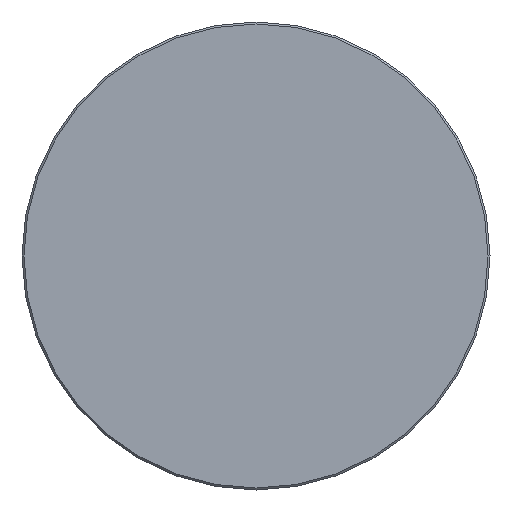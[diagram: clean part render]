
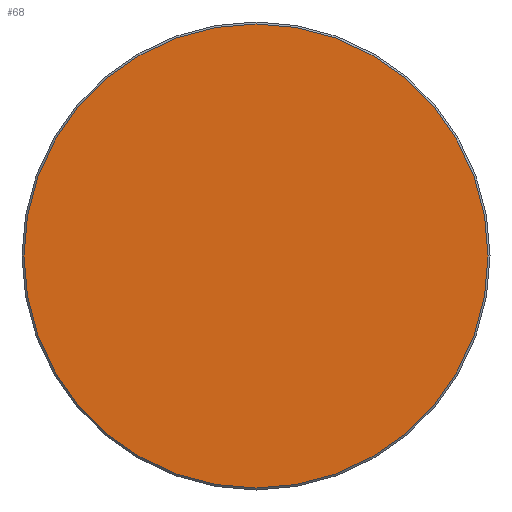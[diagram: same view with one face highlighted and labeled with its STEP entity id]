
A CAD part, left-side view. The second image highlights one B-rep face of the part: STEP entity #68.
In plain terms, the highlighted planar face has unit normal (-1, 0, 0).
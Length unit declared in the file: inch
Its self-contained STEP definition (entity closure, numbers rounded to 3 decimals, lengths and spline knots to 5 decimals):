
#4 = DIRECTION ( 'NONE',  ( -1., 0., 0. ) ) ;
#6 = DIRECTION ( 'NONE',  ( -1., 0., 0. ) ) ;
#15 = EDGE_CURVE ( 'NONE', #64, #316, #100, .T. ) ;
#36 = ORIENTED_EDGE ( 'NONE', *, *, #66, .T. ) ;
#37 = DIRECTION ( 'NONE',  ( 0., -1., 0. ) ) ;
#64 = VERTEX_POINT ( 'NONE', #271 ) ;
#66 = EDGE_CURVE ( 'NONE', #316, #64, #87, .T. ) ;
#68 = ADVANCED_FACE ( 'NONE', ( #122 ), #143, .T. ) ;
#87 = CIRCLE ( 'NONE', #228, 0.46475 ) ;
#100 = CIRCLE ( 'NONE', #361, 0.46475 ) ;
#107 = EDGE_LOOP ( 'NONE', ( #149, #36 ) ) ;
#112 = CARTESIAN_POINT ( 'NONE',  ( 0., 0., 0. ) ) ;
#122 = FACE_OUTER_BOUND ( 'NONE', #107, .T. ) ;
#142 = DIRECTION ( 'NONE',  ( 0., -1., 0. ) ) ;
#143 = PLANE ( 'NONE',  #225 ) ;
#149 = ORIENTED_EDGE ( 'NONE', *, *, #15, .T. ) ;
#216 = DIRECTION ( 'NONE',  ( -1., 0., 0. ) ) ;
#225 = AXIS2_PLACEMENT_3D ( 'NONE', #292, #216, #142 ) ;
#228 = AXIS2_PLACEMENT_3D ( 'NONE', #112, #4, #322 ) ;
#271 = CARTESIAN_POINT ( 'NONE',  ( 0., 0.46475, 0. ) ) ;
#292 = CARTESIAN_POINT ( 'NONE',  ( 0., 0., 0. ) ) ;
#316 = VERTEX_POINT ( 'NONE', #328 ) ;
#322 = DIRECTION ( 'NONE',  ( 0., -1., 0. ) ) ;
#328 = CARTESIAN_POINT ( 'NONE',  ( 0., -0.46475, 0. ) ) ;
#361 = AXIS2_PLACEMENT_3D ( 'NONE', #378, #6, #37 ) ;
#378 = CARTESIAN_POINT ( 'NONE',  ( 0., 0., 0. ) ) ;
